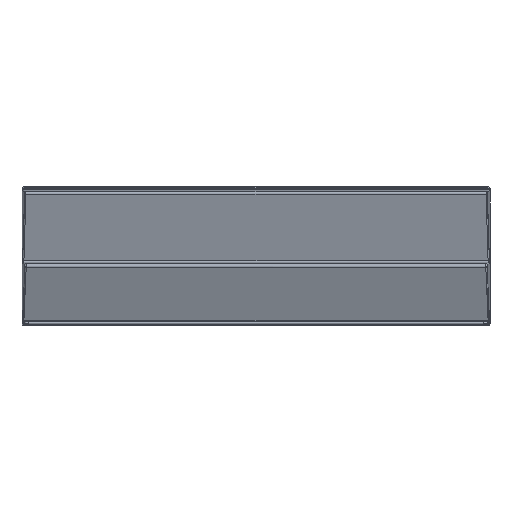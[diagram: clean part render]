
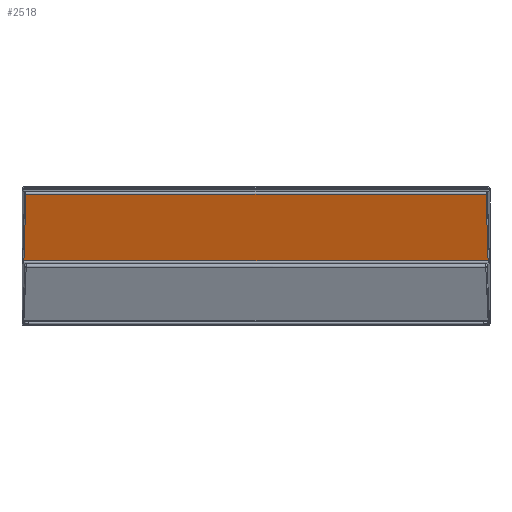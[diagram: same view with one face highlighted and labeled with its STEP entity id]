
A CAD part, top view. The second image highlights one B-rep face of the part: STEP entity #2518.
In plain terms, the highlighted planar face has unit normal (0, -0.272, 0.962).
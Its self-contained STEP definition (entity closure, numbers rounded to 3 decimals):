
#2518=ADVANCED_FACE('',(#4409),#4410,.T.);
#4409=FACE_OUTER_BOUND('',#14176,.T.);
#4410=PLANE('',#14177);
#14176=EDGE_LOOP('',(#16172,#16173,#16174,#16175));
#14177=AXIS2_PLACEMENT_3D('',#16176,#16177,#16178);
#16172=ORIENTED_EDGE('',*,*,#17880,.F.);
#16173=ORIENTED_EDGE('',*,*,#18376,.F.);
#16174=ORIENTED_EDGE('',*,*,#17920,.F.);
#16175=ORIENTED_EDGE('',*,*,#18378,.T.);
#16176=CARTESIAN_POINT('',(0.0,491.41,96.679));
#16177=DIRECTION('',(0.0,-0.272,0.962));
#16178=DIRECTION('',(0.0,-0.962,-0.272));
#17880=EDGE_CURVE('',#19746,#19748,#19749,.T.);
#17920=EDGE_CURVE('',#19818,#19820,#19821,.T.);
#18376=EDGE_CURVE('',#19820,#19746,#20454,.T.);
#18378=EDGE_CURVE('',#19818,#19748,#20456,.T.);
#19746=VERTEX_POINT('',#20721);
#19748=VERTEX_POINT('',#20723);
#19749=LINE('',#20724,#20725);
#19818=VERTEX_POINT('',#20809);
#19820=VERTEX_POINT('',#20811);
#19821=LINE('',#20812,#20813);
#20454=LINE('',#21703,#21704);
#20456=LINE('',#21706,#21707);
#20721=CARTESIAN_POINT('',(-871.726,242.343,26.189));
#20723=CARTESIAN_POINT('',(-864.317,491.41,96.679));
#20724=CARTESIAN_POINT('',(-867.39,388.098,67.44));
#20725=VECTOR('',#22032,10.0);
#20809=CARTESIAN_POINT('',(864.317,491.41,96.679));
#20811=CARTESIAN_POINT('',(871.726,242.343,26.189));
#20812=CARTESIAN_POINT('',(867.39,388.098,67.44));
#20813=VECTOR('',#22096,10.0);
#21703=CARTESIAN_POINT('',(0.0,242.343,26.189));
#21704=VECTOR('',#22801,10.0);
#21706=CARTESIAN_POINT('',(0.0,491.41,96.679));
#21707=VECTOR('',#22802,10.0);
#22032=DIRECTION('',(0.029,0.962,0.272));
#22096=DIRECTION('',(0.029,-0.962,-0.272));
#22801=DIRECTION('',(-1.0,0.0,0.0));
#22802=DIRECTION('',(-1.0,0.0,0.0));
